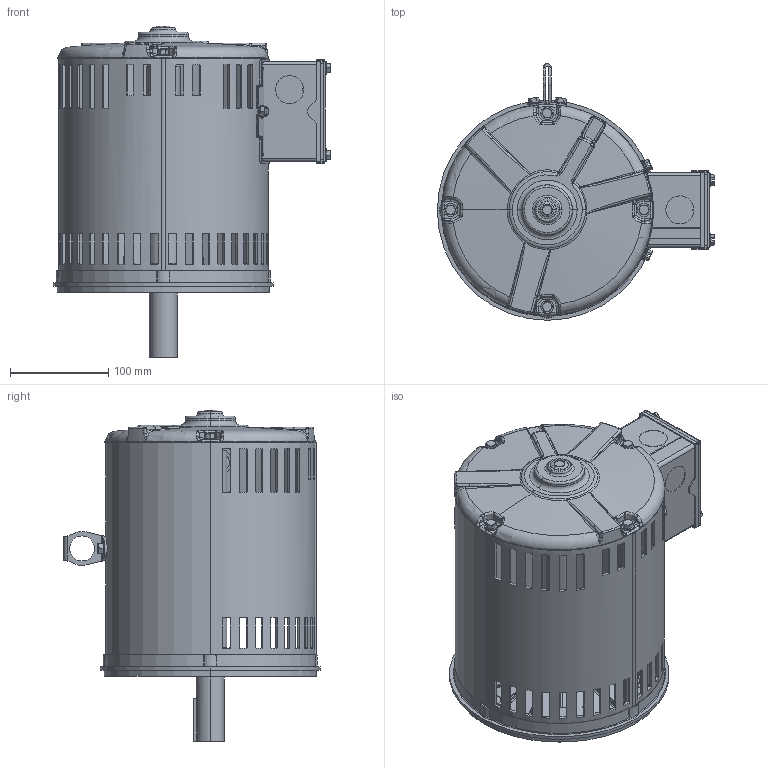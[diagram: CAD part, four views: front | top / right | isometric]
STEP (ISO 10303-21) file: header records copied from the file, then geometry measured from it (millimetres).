
FILE_DESCRIPTION (( 'STEP AP203' ), '1' );
FILE_NAME ('035574-850_Rev00.STEP', '2019-02-28T21:16:24', ( '' ), ( '' ), 'SwSTEP 2.0', 'SolidWorks 2015', '' );
FILE_SCHEMA (( 'CONFIG_CONTROL_DESIGN' ));
Length unit declared in the file: inch
Products named in the file (1): 035574-850_Rev00
Bounding box: 282.21 x 260.84 x 337.61 mm (x, y, z)
Volume: 1344722.5 mm3; surface area: 703681.2 mm2
Topology: 26 solids, 26 shells, 3365 faces, 8483 edges, 5067 vertices
Faces by surface type: bspline 1005, plane 826, cylinder 732, torus 353, cone 289, sphere 160
Entity records: 141401 total; most frequent: CARTESIAN_POINT 69226, ORIENTED_EDGE 16702, DIRECTION 13099, EDGE_CURVE 8351, AXIS2_PLACEMENT_3D 5487, VERTEX_POINT 5067, EDGE_LOOP 3610, FACE_OUTER_BOUND 3365
